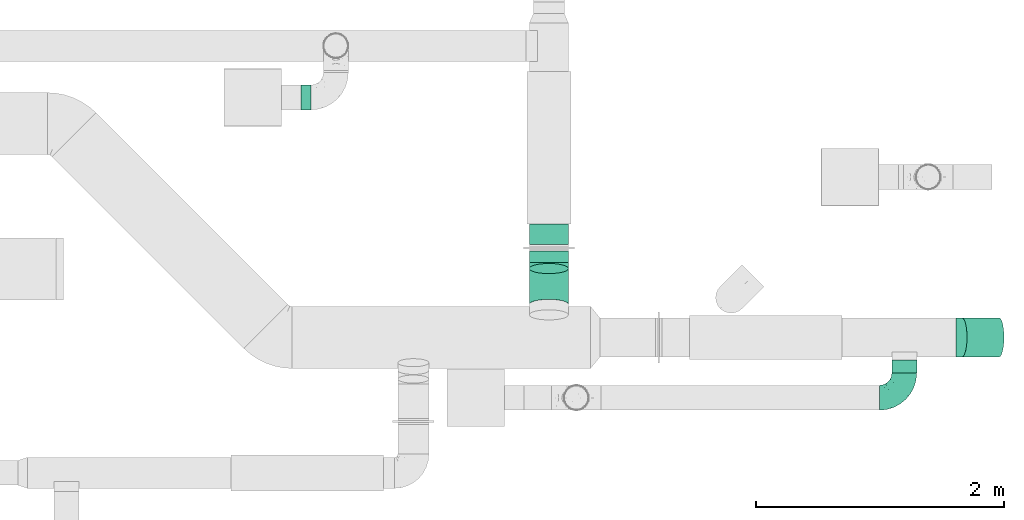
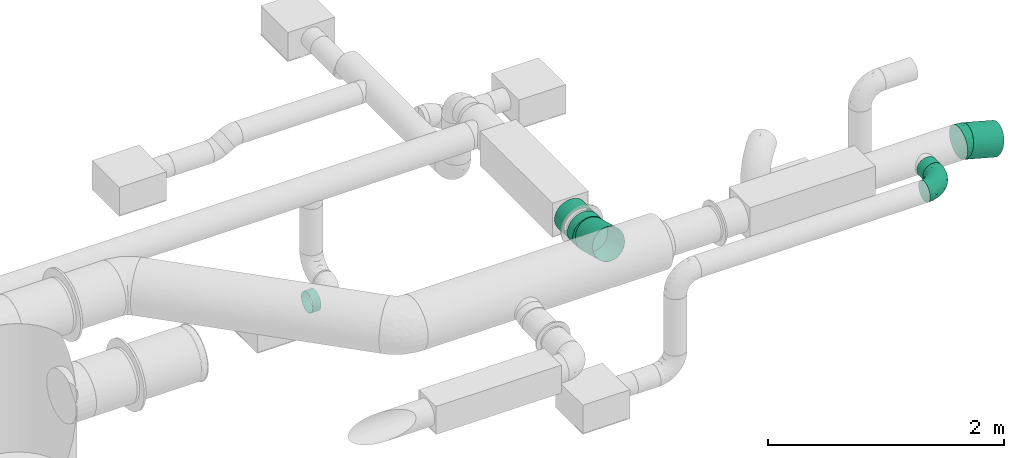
# One storey, part 20 of 31: 6 flow segments, 3 flow fittings.
"""IFC2X3 building model written with IfcOpenShell, lengths in millimetres."""

from ifc_helpers import new_model, entity, si_unit, converted_unit, derived_unit, direction, frame, origin_with_axes, origin_2d_with_axis, place, context, subcontext, project, spatial, hollow_circle, extrude, open_shell, surface_model, source, transform, mapped, type_object, element, save


model = new_model("IFC2X3")

# Units and contexts
model_context = context("Model", 3, precision=0.01, world=frame((0.0, 4.29681676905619e-09, 0.0)), true_north=direction((4.01073788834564e-13, 1.0)))
plan_context = context("Plan", 3, precision=0.01, world=frame((0.0, 4.29681676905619e-09, 0.0)), true_north=direction((4.01073788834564e-13, 1.0)))
body_context = subcontext(model_context, "Body", "Model", "MODEL_VIEW")
ifc_project = project(units=[converted_unit("PLANEANGLEUNIT", "DEGREE", entity("IfcPositiveLengthMeasure", 0.0174532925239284), si_unit("PLANEANGLEUNIT", "RADIAN"), dimensions=[0, 0, 0, 0, 0, 0, 0]), si_unit("AREAUNIT", "SQUARE_METRE"), si_unit("LENGTHUNIT", "METRE", prefix="MILLI"), si_unit("MASSUNIT", "GRAM", prefix="KILO"), si_unit("POWERUNIT", "WATT"), si_unit("PRESSUREUNIT", "PASCAL", prefix="KILO"), si_unit("FORCEUNIT", "NEWTON", prefix="KILO"), si_unit("ELECTRICVOLTAGEUNIT", "VOLT"), si_unit("ELECTRICCURRENTUNIT", "AMPERE"), si_unit("THERMODYNAMICTEMPERATUREUNIT", "DEGREE_CELSIUS"), si_unit("TIMEUNIT", "SECOND"), si_unit("VOLUMEUNIT", "CUBIC_METRE"), derived_unit("LINEARVELOCITYUNIT", [(si_unit("LENGTHUNIT", "METRE"), 1), (si_unit("TIMEUNIT", "SECOND"), -1)]), derived_unit("VOLUMETRICFLOWRATEUNIT", [(si_unit("VOLUMEUNIT", "CUBIC_METRE"), 1), (si_unit("TIMEUNIT", "SECOND"), -1)]), derived_unit("THERMALTRANSMITTANCEUNIT", [(si_unit("POWERUNIT", "WATT"), 1), (si_unit("THERMODYNAMICTEMPERATUREUNIT", "KELVIN"), -1), (si_unit("AREAUNIT", "SQUARE_METRE"), -1)]), derived_unit("SOUNDPRESSUREUNIT", [(si_unit("PRESSUREUNIT", "PASCAL"), 1)])], contexts=[model_context, plan_context])

# Site, building, storey
site_placement = place(None, frame((0.0, -4.29681676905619e-09, 0.0), z_axis=(0.0, 0.0, 1.0), x_axis=(1.0, 0.0, 0.0)))
site = spatial("IfcSite", under=ifc_project, at=site_placement, CompositionType="ELEMENT")
building_placement = place(site_placement, frame((0.0, 4.29681676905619e-09, 0.0), z_axis=(0.0, 0.0, 1.0), x_axis=(1.0, 0.0, 0.0)))
building = spatial("IfcBuilding", under=site, at=building_placement, Name="mc-building", CompositionType="ELEMENT")
storey_placement = place(building_placement, frame((0.0, 0.0, 210900.0), z_axis=(0.0, 0.0, 1.0), x_axis=(1.0, 0.0, 0.0)))
storey = spatial("IfcBuildingStorey", under=building, at=storey_placement, Name="Nivå F", CompositionType="ELEMENT", Elevation=210900.0)

# Flow fittings
duct_fitting_type_1 = type_object("IfcDuctFittingType", Name="magicirc_elbow_short_001", PredefinedType="BEND")
shared_shape_1 = source(origin_with_axes(), body_context, "Body", "SurfaceModel", [
    surface_model("IfcShellBasedSurfaceModel", [(-24.88232, 78.75, -136.39901), (-24.88232, 40.764, -152.13332), (-24.88232, 0.0, -157.5), (-24.88232, 111.36932, -111.36932), (-24.88232, 152.13332, -40.764), (-24.88232, 136.39901, -78.75), (-24.88232, -152.13332, 40.764), (-24.88232, -152.13332, -40.764), (-24.88232, -78.75, -136.39901), (-24.88232, -111.36932, -111.36932), (-24.88232, -40.764, -152.13332), (-24.88232, -136.39901, -78.75), (-24.88232, -157.5, 0.0), (-24.88232, 111.36932, 111.36932), (-24.88232, 152.13332, 40.764), (-24.88232, 136.39901, 78.75), (-24.88232, 78.75, 136.39901), (-24.88232, -111.36932, 111.36932), (-24.88232, 40.764, 152.13332), (-24.88232, -136.39901, 78.75), (-24.88232, -78.75, 136.39901), (-24.88232, -40.764, 152.13332), (-24.88232, 0.0, 157.5), (-24.88232, 157.5, 0.0), (24.03448, 6.44002, -157.5), (13.48398, 45.81502, -152.13332), (3.65248, 82.50667, -136.39901), (-4.79002, 114.01452, -111.36932), (34.58498, -32.93498, -152.13332), (-11.26818, 138.19134, -78.75), (63.40948, -140.50948, -40.764), (-4.79002, 114.01452, 111.36932), (44.41648, -69.62664, -136.39901), (52.85898, -101.13448, -111.36932), (59.33713, -125.3113, -78.75), (63.40948, -140.50948, 40.764), (64.79847, -145.6933, 0.0), (-15.34052, 153.38951, -40.764), (-15.34052, 153.38951, 40.764), (-11.26818, 138.19134, 78.75), (3.65248, 82.50667, 136.39901), (52.85898, -101.13448, 111.36932), (13.48398, 45.81502, 152.13332), (59.33713, -125.3113, 78.75), (34.58498, -32.93498, 152.13332), (44.41648, -69.62664, 136.39901), (24.03448, 6.44002, 157.5), (-16.72952, 158.57333, 0.0), (-20.77075, 157.76949, 0.0), (20.345, -154.53564, 0.0)], [open_shell([[[0, 1, 2]], [[3, 0, 2]], [[4, 5, 3]], [[6, 3, 2]], [[6, 2, 7]], [[8, 9, 10]], [[7, 10, 9]], [[11, 7, 9]], [[7, 2, 10]], [[12, 6, 7]], [[3, 6, 4]], [[13, 14, 4]], [[15, 14, 13]], [[16, 13, 6]], [[4, 6, 13]], [[17, 18, 16]], [[19, 17, 6]], [[17, 16, 6]], [[20, 21, 17]], [[22, 17, 21]], [[17, 22, 18]], [[23, 4, 14]], [[24, 25, 26]], [[24, 26, 27]], [[28, 27, 29]], [[24, 27, 28]], [[30, 29, 31]], [[32, 30, 33]], [[30, 32, 28]], [[33, 30, 34]], [[28, 29, 30]], [[30, 35, 36]], [[29, 37, 38]], [[29, 38, 31]], [[31, 38, 39]], [[40, 41, 30]], [[40, 30, 31]], [[40, 42, 41]], [[35, 41, 43]], [[30, 41, 35]], [[41, 44, 45]], [[44, 41, 46]], [[42, 46, 41]], [[38, 37, 47]], [[17, 41, 20]], [[17, 19, 43]], [[46, 22, 21]], [[21, 20, 45]], [[18, 22, 46]], [[35, 19, 6]], [[15, 13, 39]], [[16, 31, 13]], [[48, 14, 38]], [[48, 23, 14]], [[38, 14, 15]], [[40, 16, 18]], [[6, 12, 49]], [[45, 44, 21]], [[20, 41, 45]], [[44, 46, 21]], [[19, 35, 43]], [[17, 43, 41]], [[35, 49, 36]], [[39, 38, 15]], [[47, 48, 38]], [[40, 18, 42]], [[16, 40, 31]], [[39, 13, 31]], [[42, 18, 46]], [[6, 49, 35]], [[1, 24, 2]], [[2, 24, 10]], [[29, 3, 5]], [[3, 27, 0]], [[0, 26, 1]], [[5, 4, 37]], [[49, 12, 7]], [[30, 49, 7]], [[33, 9, 8]], [[7, 11, 30]], [[9, 34, 11]], [[32, 8, 10]], [[4, 23, 48]], [[48, 47, 37]], [[37, 29, 5]], [[0, 27, 26]], [[1, 26, 25]], [[3, 29, 27]], [[25, 24, 1]], [[32, 10, 28]], [[33, 8, 32]], [[11, 34, 30]], [[30, 36, 49]], [[34, 9, 33]], [[24, 28, 10]], [[4, 48, 37]]])]),
])
for number, where, z_axis, x_axis, name in (
    (1, (725584.4603, 439073.36627, 3795.0), (1.0, 0.0, 0.0), (0.0, 0.965925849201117, -0.258818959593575), "magicirc_elbow_short_001"),
    (2, (728885.21882, 438494.89839, 3950.0), (0.0, -1.0, 0.0), (-0.965925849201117, 0.0, 0.258818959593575), "magicirc_elbow_short_001"),
):
    element("IfcFlowFitting", number, at=place(storey_placement, frame(where, z_axis=z_axis, x_axis=x_axis)), inside=storey, type_object=duct_fitting_type_1, Name=name, context=body_context, shape_type="MappedRepresentation", body=[
        mapped(shared_shape_1, transform((0.0, 0.0, 0.0), scale=1.0)),
    ])
duct_fitting_type_2 = type_object("IfcDuctFittingType", Name="magicirc_elbow_full_radius_001", PredefinedType="BEND")
shared_shape_2 = source(origin_with_axes(), body_context, "Body", "SurfaceModel", [
    surface_model("IfcShellBasedSurfaceModel", [(-200.0, 25.8819, -96.59259), (-200.0, 0.0, -100.0), (-200.0, 96.59259, -25.8819), (-200.0, 50.0, -86.60254), (-200.0, 70.71068, -70.71068), (-200.0, 86.60254, -50.0), (-200.0, 100.0, 0.0), (-200.0, -70.71068, -70.71068), (-200.0, -50.0, -86.60254), (-200.0, -25.8819, -96.59259), (-200.0, -86.60254, -50.0), (-200.0, -96.59259, -25.8819), (-200.0, -96.59259, 25.8819), (-200.0, -100.0, 0.0), (-200.0, 86.60254, 50.0), (-200.0, 96.59259, 25.8819), (-200.0, -50.0, 86.60254), (-200.0, 25.8819, 96.59259), (-200.0, 50.0, 86.60254), (-200.0, 70.71068, 70.71068), (-200.0, -86.60254, 50.0), (-200.0, -70.71068, 70.71068), (-200.0, -25.8819, 96.59259), (-200.0, 0.0, 100.0), (-25.8819, 200.0, -96.59259), (96.59259, 200.0, 25.8819), (0.0, 200.0, -100.0), (-70.71068, 200.0, -70.71068), (-50.0, 200.0, -86.60254), (-86.60254, 200.0, -50.0), (70.71068, 200.0, -70.71068), (25.8819, 200.0, -96.59259), (50.0, 200.0, -86.60254), (96.59259, 200.0, -25.8819), (86.60254, 200.0, -50.0), (100.0, 200.0, 0.0), (-96.59259, 200.0, -25.8819), (-100.0, 200.0, 0.0), (-96.59259, 200.0, 25.8819), (-86.60254, 200.0, 50.0), (-50.0, 200.0, 86.60254), (-25.8819, 200.0, 96.59259), (-70.71068, 200.0, 70.71068), (50.0, 200.0, 86.60254), (70.71068, 200.0, 70.71068), (86.60254, 200.0, 50.0), (25.8819, 200.0, 96.59259), (0.0, 200.0, 100.0), (-170.28345, -80.453, 57.20341), (-151.30505, -62.14272, 74.57098), (-141.47291, -94.23558, 0.0), (-152.48501, -91.13434, 31.26682), (-175.16033, -97.5535, 0.0), (49.44088, 33.32893, 0.0), (56.65771, 47.69157, 17.5513), (30.78646, 10.59845, 0.0), (-115.72747, -62.79147, 65.02361), (-110.24866, -47.46346, 77.46704), (-131.78251, -77.03572, 52.17296), (-155.84565, 81.73243, 67.52503), (-165.38682, 59.81194, 83.11685), (-153.53621, -15.46231, 97.89391), (-99.34826, -9.37473, 94.63603), (-109.04028, 19.17637, 99.9709), (-11.41001, 147.58509, 99.90915), (-66.65717, -62.98288, 31.65851), (-19.65477, -37.28433, 19.69829), (-42.80044, -46.52394, 38.2888), (-76.76667, -58.58513, 50.26593), (-107.75087, -80.71677, 29.70656), (-170.73585, -40.65955, 90.5511), (-172.81551, 101.70087, 19.84455), (-146.92494, 108.70969, 32.98808), (-141.22148, 119.0983, 0.0), (-63.14521, 144.11081, 85.31109), (-80.51529, 161.84448, 66.62709), (-89.41257, 123.59035, 75.49114), (-59.28706, 175.69502, 82.02298), (-159.40173, 10.55746, 99.80411), (77.16386, 85.19497, 0.0), (62.56216, 67.38452, 33.69402), (-101.70087, 172.81551, 19.84455), (-93.96462, 171.01, 43.43771), (-171.01, 93.96462, 43.43771), (-151.20277, 37.27353, 95.35782), (-100.76094, 141.8163, 52.73949), (-123.065, 123.065, 41.02461), (-115.71118, 115.71117, 58.92154), (-108.70969, 146.92494, 32.98808), (-169.09831, 104.89435, 0.0), (-126.3807, 68.32629, 87.09158), (-3.53309, 67.51081, 92.91692), (-29.40722, 29.40721, 91.09367), (0.78973, 37.96478, 81.45071), (-60.00062, -0.36077, 89.58959), (-67.88209, 21.58789, 97.54896), (62.32031, 154.13138, 74.86163), (-141.8163, 100.76094, 52.73949), (91.13434, 152.48501, 31.26682), (80.453, 170.28345, 57.20341), (-18.49849, -12.30744, 60.90175), (8.80323, 19.6267, 65.08263), (-25.42255, 3.46809, 77.76258), (-74.03921, 114.7783, 87.77152), (-87.24231, 87.48345, 91.33971), (-52.29396, 97.96814, 97.88047), (97.5535, 175.16033, 0.0), (15.66986, 158.34417, 98.04921), (39.67143, 143.40046, 88.65468), (-104.89435, 169.09831, 0.0), (-119.0983, 141.22148, 0.0), (-79.31604, 55.69606, 99.29154), (50.31225, 117.34231, 77.16335), (77.03572, 131.78251, 52.17296), (-113.91527, 94.9934, 76.65605), (64.93177, 92.97178, 51.47516), (47.72556, 81.69016, 66.67609), (40.01044, 43.97718, 50.57869), (-17.45546, -26.87288, 41.03287), (-127.86769, 127.86769, 19.95139), (-59.26195, -63.30237, 0.0), (-33.32893, -49.44088, 0.0), (-15.13235, 108.44666, 99.8016), (9.03102, 110.97634, 96.23014), (-35.35458, 66.6809, 99.29493), (-36.40308, 160.4143, 94.8486), (-32.26105, 126.83648, 98.54453), (5.63455, -13.55537, 26.35365), (8.74012, 0.17058, 45.65263), (46.65777, 40.2329, 34.44568), (80.66195, 107.48302, 29.60457), (85.69972, 113.33393, 0.0), (28.17336, 90.6004, 84.77214), (-103.20436, 61.65595, 95.02282), (-132.43349, -38.40548, 87.83865), (-113.33393, -85.69972, 0.0), (-87.1495, -28.94235, 83.35483), (-47.7214, -39.47514, 54.58142), (-52.3084, 125.73797, 93.79051), (25.86889, 52.68176, 71.74074), (63.30237, 59.26195, 0.0), (94.23558, 141.47291, 0.0), (29.54521, 14.24018, 30.32032), (-85.19497, -77.16386, 0.0), (-50.98503, -24.63183, 71.83876), (-81.69017, -47.72556, 66.67609), (-10.59845, -30.78646, 0.0), (12.13203, -12.13203, 0.0), (-160.4143, 36.40307, -94.8486), (-126.83648, 32.26105, -98.54453), (-147.58509, 11.41001, -99.90915), (-59.81194, 165.3868, -83.11686), (-158.34417, -15.66986, -98.0492), (-110.97634, -9.03102, -96.23014), (12.30745, 18.4985, -60.90175), (-19.62669, -8.80321, -65.08265), (-3.46809, 25.42255, -77.76258), (-114.7783, 74.03921, -87.77153), (-87.48346, 87.2423, -91.33971), (-97.96814, 52.29396, -97.88047), (-172.81551, 101.70087, -19.84455), (13.55537, -5.63454, -26.35364), (-0.17055, -8.74011, -45.6526), (26.87289, 17.45547, -41.03286), (-146.92494, 108.70969, -32.98808), (-47.69157, -56.65771, -17.5513), (-123.06501, 123.065, -41.02461), (-127.86769, 127.86769, -19.95139), (-108.70969, 146.92494, -32.98808), (-175.69502, 59.28706, -82.02298), (-161.84448, 80.51529, -66.62709), (-144.11081, 63.14521, -85.31109), (62.98288, 66.65718, -31.65851), (-81.73243, 155.84565, -67.52503), (-141.8163, 100.76093, -52.73949), (-171.01, 93.96462, -43.43771), (-55.69606, 79.31604, -99.29154), (-66.68089, 35.35458, -99.29493), (-152.48501, -91.13434, -31.26682), (-170.28345, -80.45301, -57.20341), (-92.97178, -64.93177, -51.47516), (-81.69017, -47.72556, -66.67608), (-43.97716, -40.01043, -50.57869), (-10.55746, 159.40173, -99.80411), (15.46231, 153.53621, -97.89391), (-154.13138, -62.32031, -74.86163), (-143.40046, -39.67143, -88.65468), (-37.27353, 151.20276, -95.35782), (-107.48302, -80.66195, -29.60457), (0.36078, 60.00061, -89.58959), (-29.40721, 29.40721, -91.09366), (-21.58789, 67.88208, -97.54896), (-100.76094, 141.8163, -52.73949), (-93.96462, 171.01, -43.43771), (-101.70087, 172.81551, -19.84455), (-19.17637, 109.04027, -99.9709), (-123.59035, 89.41257, -75.49114), (62.14272, 151.30505, -74.57098), (40.65955, 170.73585, -90.5511), (46.52395, 42.80044, -38.28881), (37.28435, 19.6548, -19.69829), (-68.3263, 126.38069, -87.09158), (-67.51081, 3.53309, -92.91692), (-37.96476, -0.78971, -81.45071), (58.58512, 76.76664, -50.26592), (-67.38452, -62.56216, -33.69402), (80.45301, 170.28345, -57.20341), (80.71677, 107.75087, -29.70656), (38.40548, 132.43348, -87.83865), (62.79147, 115.72747, -65.02361), (47.46347, 110.24866, -77.46703), (91.13434, 152.48501, -31.26682), (-40.2329, -46.65777, -34.44568), (-90.60041, -28.17337, -84.77214), (77.03572, 131.78251, -52.17296), (9.37473, 99.34825, -94.63603), (-117.34231, -50.31225, -77.16335), (-131.78251, -77.03572, -52.17296), (-94.99341, 113.91526, -76.65605), (-108.44666, 15.13234, -99.8016), (-61.65596, 103.20434, -95.02282), (28.94235, 87.1495, -83.35483), (39.47513, 47.72139, -54.58143), (-125.73797, 52.30839, -93.79051), (-52.68177, -25.86889, -71.74075), (-115.71118, 115.71117, -58.92154), (-14.24018, -29.54521, -30.32033), (24.63182, 50.98504, -71.83876), (47.72556, 81.69017, -66.67609)], [open_shell([[[0, 1, 2]], [[3, 0, 4]], [[2, 5, 4]], [[0, 2, 4]], [[6, 1, 7]], [[8, 7, 9]], [[7, 1, 9]], [[10, 11, 7]], [[12, 11, 13]], [[12, 7, 11]], [[2, 1, 6]], [[14, 15, 6]], [[16, 14, 7]], [[14, 17, 18]], [[19, 14, 18]], [[17, 14, 16]], [[20, 21, 12]], [[16, 12, 21]], [[16, 22, 17]], [[16, 7, 12]], [[17, 22, 23]], [[14, 6, 7]], [[24, 25, 26]], [[27, 24, 28]], [[25, 27, 29]], [[24, 27, 25]], [[30, 26, 25]], [[31, 30, 32]], [[31, 26, 30]], [[30, 33, 34]], [[35, 33, 25]], [[33, 30, 25]], [[25, 29, 36]], [[37, 38, 39]], [[25, 37, 39]], [[40, 41, 39]], [[40, 39, 42]], [[43, 39, 41]], [[25, 44, 45]], [[44, 25, 43]], [[41, 46, 43]], [[43, 25, 39]], [[47, 46, 41]], [[37, 25, 36]], [[21, 48, 49]], [[50, 51, 52]], [[53, 54, 55]], [[56, 57, 49]], [[48, 51, 58]], [[59, 19, 60]], [[61, 62, 63]], [[47, 41, 64]], [[65, 66, 67]], [[68, 69, 65]], [[16, 21, 49]], [[19, 18, 60]], [[16, 70, 22]], [[71, 72, 73]], [[74, 75, 76]], [[77, 40, 42]], [[19, 59, 14]], [[23, 78, 17]], [[54, 79, 80]], [[38, 81, 82]], [[70, 61, 22]], [[21, 20, 48]], [[83, 15, 14]], [[83, 72, 71]], [[84, 18, 17]], [[6, 15, 71]], [[85, 86, 87]], [[85, 82, 88]], [[71, 73, 89]], [[22, 61, 23]], [[90, 60, 84]], [[91, 92, 93]], [[65, 67, 68]], [[94, 92, 95]], [[43, 96, 44]], [[97, 72, 83]], [[25, 45, 98]], [[44, 99, 45]], [[75, 42, 39]], [[100, 101, 102]], [[103, 104, 105]], [[98, 106, 25]], [[46, 107, 108]], [[108, 96, 43]], [[109, 110, 81]], [[104, 111, 105]], [[112, 113, 96]], [[98, 45, 99]], [[114, 59, 90]], [[108, 43, 46]], [[115, 116, 117]], [[88, 81, 110]], [[67, 66, 118]], [[110, 73, 119]], [[109, 81, 37]], [[95, 111, 63]], [[120, 121, 65]], [[86, 119, 72]], [[122, 123, 64]], [[111, 124, 105]], [[75, 74, 77]], [[64, 125, 126]], [[127, 128, 118]], [[80, 129, 54]], [[41, 40, 125]], [[125, 64, 41]], [[123, 107, 64]], [[98, 130, 131]], [[132, 108, 123]], [[47, 107, 46]], [[78, 23, 61]], [[20, 12, 51]], [[133, 63, 111]], [[130, 98, 113]], [[115, 117, 80]], [[82, 39, 38]], [[75, 85, 76]], [[62, 61, 134]], [[78, 63, 84]], [[56, 49, 58]], [[70, 49, 134]], [[51, 12, 52]], [[51, 135, 69]], [[115, 130, 113]], [[82, 81, 88]], [[62, 136, 94]], [[62, 94, 95]], [[67, 118, 137]], [[69, 58, 51]], [[77, 125, 40]], [[126, 138, 105]], [[112, 96, 108]], [[99, 96, 113]], [[117, 116, 139]], [[66, 127, 118]], [[92, 102, 93]], [[92, 94, 102]], [[63, 78, 61]], [[84, 17, 78]], [[64, 107, 47]], [[108, 107, 123]], [[84, 60, 18]], [[59, 60, 90]], [[87, 114, 76]], [[104, 103, 114]], [[114, 87, 97]], [[104, 114, 90]], [[63, 133, 84]], [[138, 103, 105]], [[90, 133, 104]], [[63, 62, 95]], [[91, 124, 92]], [[122, 64, 126]], [[92, 124, 95]], [[111, 95, 124]], [[140, 79, 54]], [[131, 141, 98]], [[88, 86, 85]], [[75, 39, 82]], [[76, 85, 87]], [[75, 82, 85]], [[14, 59, 83]], [[97, 87, 86]], [[83, 59, 97]], [[114, 97, 59]], [[117, 142, 129]], [[65, 69, 143]], [[136, 62, 134]], [[102, 101, 93]], [[144, 94, 136]], [[137, 100, 144]], [[57, 136, 134]], [[136, 145, 144]], [[101, 139, 93]], [[91, 132, 123]], [[93, 139, 132]], [[91, 123, 122]], [[93, 132, 91]], [[132, 116, 112]], [[144, 100, 102]], [[128, 100, 118]], [[144, 102, 94]], [[137, 144, 145]], [[137, 145, 68]], [[100, 137, 118]], [[56, 68, 145]], [[69, 68, 58]], [[101, 128, 117]], [[132, 139, 116]], [[101, 117, 139]], [[129, 80, 117]], [[68, 67, 137]], [[65, 143, 120]], [[127, 146, 147]], [[55, 127, 147]], [[66, 146, 127]], [[128, 127, 142]], [[117, 128, 142]], [[100, 128, 101]], [[138, 125, 74]], [[122, 105, 124]], [[105, 122, 126]], [[91, 122, 124]], [[125, 138, 126]], [[138, 74, 103]], [[74, 76, 103]], [[114, 103, 76]], [[132, 112, 108]], [[112, 116, 115]], [[12, 13, 52]], [[106, 98, 141]], [[106, 35, 25]], [[37, 81, 38]], [[88, 110, 119]], [[97, 86, 72]], [[72, 119, 73]], [[88, 119, 86]], [[6, 71, 89]], [[83, 71, 15]], [[75, 77, 42]], [[125, 77, 74]], [[49, 70, 16]], [[61, 70, 134]], [[51, 48, 20]], [[49, 48, 58]], [[96, 99, 44]], [[98, 99, 113]], [[80, 79, 130]], [[130, 115, 80]], [[112, 115, 113]], [[68, 56, 58]], [[57, 56, 145]], [[136, 57, 145]], [[49, 57, 134]], [[65, 121, 66]], [[127, 55, 142]], [[84, 133, 90]], [[111, 104, 133]], [[130, 79, 131]], [[135, 51, 50]], [[135, 143, 69]], [[142, 55, 54]], [[142, 54, 129]], [[140, 54, 53]], [[66, 121, 146]], [[148, 149, 150]], [[28, 151, 27]], [[152, 150, 153]], [[154, 155, 156]], [[150, 0, 148]], [[157, 158, 159]], [[89, 160, 6]], [[161, 162, 163]], [[164, 160, 73]], [[121, 165, 146]], [[166, 167, 168]], [[169, 170, 171]], [[140, 53, 172]], [[27, 173, 29]], [[174, 175, 164]], [[176, 177, 159]], [[178, 10, 179]], [[180, 181, 182]], [[178, 52, 11]], [[183, 26, 184]], [[185, 8, 186]], [[0, 3, 148]], [[9, 186, 8]], [[187, 28, 24]], [[31, 184, 26]], [[178, 11, 10]], [[179, 10, 7]], [[178, 188, 135]], [[7, 8, 185]], [[152, 186, 9]], [[189, 190, 191]], [[158, 176, 159]], [[167, 73, 110]], [[192, 168, 193]], [[166, 168, 192]], [[193, 36, 29]], [[36, 194, 37]], [[191, 176, 195]], [[171, 170, 196]], [[194, 193, 168]], [[160, 175, 2]], [[197, 32, 30]], [[198, 184, 31]], [[173, 27, 151]], [[169, 3, 4]], [[26, 183, 24]], [[199, 200, 163]], [[187, 201, 151]], [[202, 190, 203]], [[31, 32, 198]], [[199, 172, 200]], [[172, 199, 204]], [[165, 143, 205]], [[30, 34, 206]], [[207, 172, 204]], [[89, 73, 160]], [[198, 197, 208]], [[9, 1, 152]], [[209, 210, 197]], [[170, 4, 5]], [[211, 106, 141]], [[205, 212, 165]], [[213, 186, 153]], [[211, 214, 206]], [[34, 33, 211]], [[215, 195, 184]], [[194, 168, 110]], [[1, 0, 150]], [[216, 217, 185]], [[194, 110, 109]], [[218, 173, 201]], [[219, 153, 150]], [[220, 195, 176]], [[188, 178, 217]], [[180, 182, 205]], [[175, 5, 2]], [[170, 174, 196]], [[206, 197, 30]], [[209, 197, 214]], [[215, 184, 208]], [[183, 195, 187]], [[211, 33, 106]], [[211, 131, 207]], [[180, 188, 217]], [[33, 35, 106]], [[215, 221, 189]], [[215, 189, 191]], [[199, 163, 222]], [[207, 214, 211]], [[169, 148, 3]], [[149, 223, 159]], [[216, 185, 186]], [[179, 185, 217]], [[182, 181, 224]], [[200, 161, 163]], [[190, 156, 203]], [[190, 189, 156]], [[195, 183, 184]], [[187, 24, 183]], [[150, 152, 1]], [[186, 152, 153]], [[187, 151, 28]], [[173, 151, 201]], [[225, 218, 196]], [[158, 157, 218]], [[218, 225, 192]], [[158, 218, 201]], [[195, 220, 187]], [[223, 157, 159]], [[201, 220, 158]], [[195, 215, 191]], [[202, 177, 190]], [[219, 150, 149]], [[190, 177, 191]], [[176, 191, 177]], [[120, 143, 165]], [[135, 50, 178]], [[164, 166, 174]], [[170, 5, 175]], [[196, 174, 225]], [[170, 175, 174]], [[29, 173, 193]], [[192, 225, 166]], [[193, 173, 192]], [[218, 192, 173]], [[182, 226, 212]], [[172, 207, 79]], [[221, 215, 208]], [[156, 155, 203]], [[227, 189, 221]], [[222, 154, 227]], [[210, 221, 208]], [[221, 228, 227]], [[155, 224, 203]], [[202, 213, 153]], [[203, 224, 213]], [[202, 153, 219]], [[203, 213, 202]], [[213, 181, 216]], [[227, 154, 156]], [[162, 154, 163]], [[227, 156, 189]], [[222, 227, 228]], [[222, 228, 204]], [[154, 222, 163]], [[209, 204, 228]], [[207, 204, 214]], [[155, 162, 182]], [[213, 224, 181]], [[155, 182, 224]], [[212, 205, 182]], [[204, 199, 222]], [[172, 79, 140]], [[161, 55, 147]], [[146, 161, 147]], [[200, 55, 161]], [[162, 161, 226]], [[182, 162, 226]], [[154, 162, 155]], [[223, 148, 171]], [[219, 159, 177]], [[159, 219, 149]], [[202, 219, 177]], [[148, 223, 149]], [[223, 171, 157]], [[171, 196, 157]], [[218, 157, 196]], [[213, 216, 186]], [[216, 181, 180]], [[52, 178, 50]], [[52, 13, 11]], [[175, 160, 164]], [[6, 160, 2]], [[174, 166, 225]], [[167, 164, 73]], [[168, 167, 110]], [[164, 167, 166]], [[37, 194, 109]], [[193, 194, 36]], [[170, 169, 4]], [[148, 169, 171]], [[197, 198, 32]], [[184, 198, 208]], [[211, 206, 34]], [[197, 206, 214]], [[185, 179, 7]], [[178, 179, 217]], [[205, 143, 188]], [[188, 180, 205]], [[216, 180, 217]], [[204, 209, 214]], [[210, 209, 228]], [[221, 210, 228]], [[197, 210, 208]], [[172, 53, 200]], [[161, 146, 226]], [[187, 220, 201]], [[176, 158, 220]], [[188, 143, 135]], [[131, 211, 141]], [[131, 79, 207]], [[226, 146, 165]], [[226, 165, 212]], [[120, 165, 121]], [[200, 53, 55]]])]),
])
flow_fitting_placement = place(storey_placement, frame((728445.46533, 438009.23478, 3950.0), z_axis=(0.0, 0.0, 1.0), x_axis=(1.0, 0.0, 0.0)))
element("IfcFlowFitting", 3, at=flow_fitting_placement, inside=storey, type_object=duct_fitting_type_2, Name="magicirc_elbow_full_radius_001", context=body_context, shape_type="MappedRepresentation", body=[
    mapped(shared_shape_2, transform((0.0, 0.0, 0.0), scale=1.0)),
])

# Flow segments
duct_segment_type = type_object("IfcDuctSegmentType", Name="KK001T - Spiro kanaler, Forsinket stål", PredefinedType="RIGIDSEGMENT")
shared_shape_3 = source(origin_with_axes(), body_context, "Body", "SweptSolid", [
    extrude(hollow_circle(Radius=157.5, WallThickness=2.0, at=origin_2d_with_axis()), frame((0.0, 0.0, 0.0), z_axis=(1.0, 0.0, 0.0), x_axis=(0.0, 1.0, 0.0)), (0.0, 0.0, 1.0), 92.0),
])
flow_segment_1_placement = place(storey_placement, frame((725584.4603, 439190.23836, 3795.0), z_axis=(0.0, 0.0, 1.0), x_axis=(0.0, -1.0, 0.0)))
element("IfcFlowSegment", 4, at=flow_segment_1_placement, inside=storey, type_object=duct_segment_type, Name="KK001T - Spiro kanaler, Forsinket stål", context=body_context, shape_type="MappedRepresentation", body=[
    mapped(shared_shape_3, transform((0.0, 0.0, 0.0), scale=1.0)),
])
shared_shape_4 = source(origin_with_axes(), body_context, "Body", "SweptSolid", [
    extrude(hollow_circle(Radius=157.5, WallThickness=2.0, at=origin_2d_with_axis()), frame((0.0, 0.0, 0.0), z_axis=(1.0, 0.0, 0.0), x_axis=(0.0, 1.0, 0.0)), (0.0, 0.0, 1.0), 299.0),
])
flow_segment_2_placement = place(storey_placement, frame((725584.4603, 438760.528, 3878.82475999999), z_axis=(0.0, 0.258818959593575, 0.965925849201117), x_axis=(0.0, 0.965925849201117, -0.258818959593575)))
element("IfcFlowSegment", 5, at=flow_segment_2_placement, inside=storey, type_object=duct_segment_type, Name="KK001T - Spiro kanaler, Forsinket stål", context=body_context, shape_type="MappedRepresentation", body=[
    mapped(shared_shape_4, transform((0.0, 0.0, 0.0), scale=1.0)),
])
shared_shape_5 = source(origin_with_axes(), body_context, "Body", "SweptSolid", [
    extrude(hollow_circle(Radius=157.5, WallThickness=2.0, at=origin_2d_with_axis()), frame((0.0, 0.0, 0.0), z_axis=(1.0, 0.0, 0.0), x_axis=(0.0, 1.0, 0.0)), (0.0, 0.0, 1.0), 164.2),
])
flow_segment_3_placement = place(storey_placement, frame((725584.4603, 439242.23836, 3795.0), z_axis=(0.0, 0.0, 1.0), x_axis=(0.0, 1.0, 0.0)))
element("IfcFlowSegment", 6, at=flow_segment_3_placement, inside=storey, type_object=duct_segment_type, Name="KK001T - Spiro kanaler, Forsinket stål", context=body_context, shape_type="MappedRepresentation", body=[
    mapped(shared_shape_5, transform((0.0, 0.0, 0.0), scale=1.0)),
])
shared_shape_6 = source(origin_with_axes(), body_context, "Body", "SweptSolid", [
    extrude(hollow_circle(Radius=157.5, WallThickness=2.0, at=origin_2d_with_axis()), frame((0.0, 0.0, 0.0), z_axis=(1.0, 0.0, 0.0), x_axis=(0.0, 1.0, 0.0)), (0.0, 0.0, 1.0), 308.1),
])
flow_segment_4_placement = place(storey_placement, frame((729206.8363, 438494.89839, 3863.82286000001), z_axis=(0.258818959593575, 0.0, 0.965925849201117), x_axis=(-0.965925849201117, 0.0, 0.258818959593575)))
element("IfcFlowSegment", 7, at=flow_segment_4_placement, inside=storey, type_object=duct_segment_type, Name="KK001T - Spiro kanaler, Forsinket stål", context=body_context, shape_type="MappedRepresentation", body=[
    mapped(shared_shape_6, transform((0.0, 0.0, 0.0), scale=1.0)),
])
shared_shape_7 = source(origin_with_axes(), body_context, "Body", "SweptSolid", [
    extrude(hollow_circle(Radius=100.0, WallThickness=2.0, at=origin_2d_with_axis()), frame((0.0, 0.0, 0.0), z_axis=(1.0, 0.0, 0.0), x_axis=(0.0, 1.0, 0.0)), (0.0, 0.0, 1.0), 103.2),
])
flow_segment_5_placement = place(storey_placement, frame((728445.46533, 438312.39839, 3950.0), z_axis=(0.0, 0.0, 1.0), x_axis=(0.0, -1.0, 0.0)))
element("IfcFlowSegment", 8, at=flow_segment_5_placement, inside=storey, type_object=duct_segment_type, Name="KK001T - Spiro kanaler, Forsinket stål", context=body_context, shape_type="MappedRepresentation", body=[
    mapped(shared_shape_7, transform((0.0, 0.0, 0.0), scale=1.0)),
])
shared_shape_8 = source(origin_with_axes(), body_context, "Body", "SweptSolid", [
    extrude(hollow_circle(Radius=100.0, WallThickness=2.0, at=origin_2d_with_axis()), frame((0.0, 0.0, 0.0), z_axis=(1.0, 0.0, 0.0), x_axis=(0.0, 1.0, 0.0)), (0.0, 0.0, 1.0), 80.0),
])
flow_segment_6_placement = place(storey_placement, frame((723590.52987, 440426.3317, 2965.0), z_axis=(0.0, 0.0, 1.0), x_axis=(1.0, 0.0, 0.0)))
element("IfcFlowSegment", 9, at=flow_segment_6_placement, inside=storey, type_object=duct_segment_type, Name="KK001T - Spiro kanaler, Forsinket stål", context=body_context, shape_type="MappedRepresentation", body=[
    mapped(shared_shape_8, transform((0.0, 0.0, 0.0), scale=1.0)),
])

save(model, "model.ifc")
